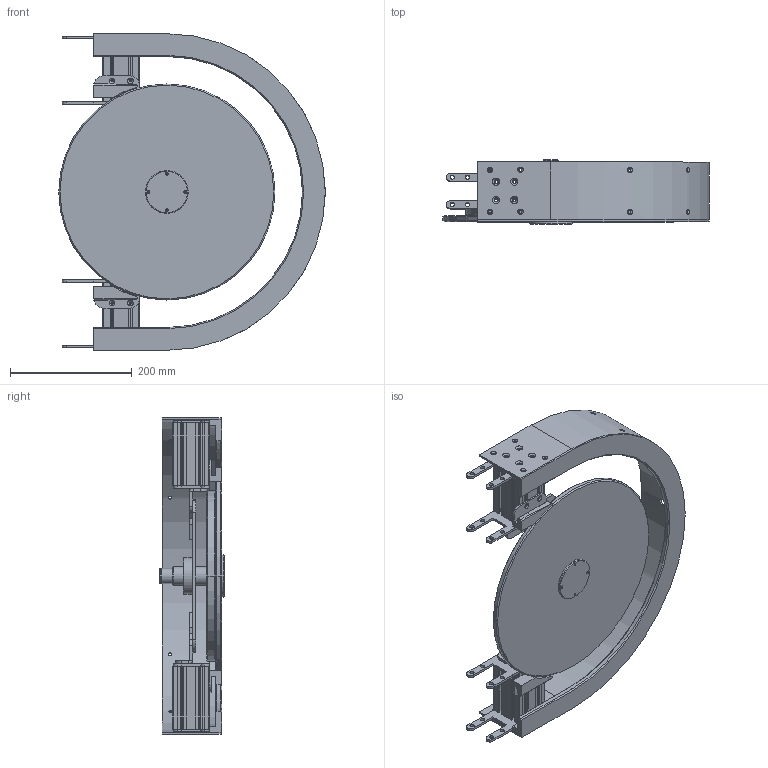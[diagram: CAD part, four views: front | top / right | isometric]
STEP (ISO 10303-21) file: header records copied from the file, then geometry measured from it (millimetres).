
FILE_DESCRIPTION (( 'STEP AP203' ), '1' );
FILE_NAME ('2000.450.618.STEP', '2018-03-12T15:47:16', ( '' ), ( '' ), 'SwSTEP 2.0', 'SolidWorks 2016', '' );
FILE_SCHEMA (( 'CONFIG_CONTROL_DESIGN' ));
Length unit declared in the file: millimetre
Products named in the file (14): 2000.450.004_Default<A macchina>; 2000.325.514; 2000.325.513-3; 2000.450.503; 2000.325.502-4; 2000.450.410; 2000.450.618; 2000.325.501-2; 2000.325.401; 2000.325.402; 2000.450.501; radial ball bearing_68_skf_SKF - 16005 - 14,DE,NC,14_68; 2000.450.502; 2000.450.420
Assembly tree (20 placements, depth 2):
  2000.450.618
    2000.325.501-2
    2000.325.502-4
    2000.325.402  x2
    2000.325.513-3
    2000.325.514
    2000.325.401  x4
    radial ball bearing_68_skf_SKF - 16005 - 14,DE,NC,14_68  x2
    2000.450.004_Default<A macchina>  x2
    2000.450.501  x2
    2000.450.502
    2000.450.503
    2000.450.410
    2000.450.420
Bounding box: 437.5 x 106 x 520 mm (x, y, z)
Volume: 3286917.8 mm3; surface area: 959495.5 mm2
Topology: 20 solids, 20 shells, 1268 faces, 3816 edges, 2490 vertices
Faces by surface type: plane 489, cylinder 480, torus 120, cone 81, sphere 56, bspline 42
Entity records: 34990 total; most frequent: CARTESIAN_POINT 12880, ORIENTED_EDGE 4354, DIRECTION 4217, EDGE_CURVE 2177, AXIS2_PLACEMENT_3D 1595, VERTEX_POINT 1419, VECTOR 1027, LINE 1027
